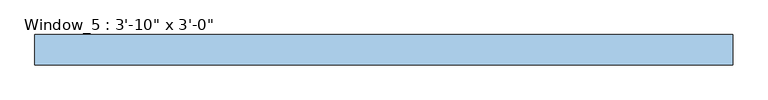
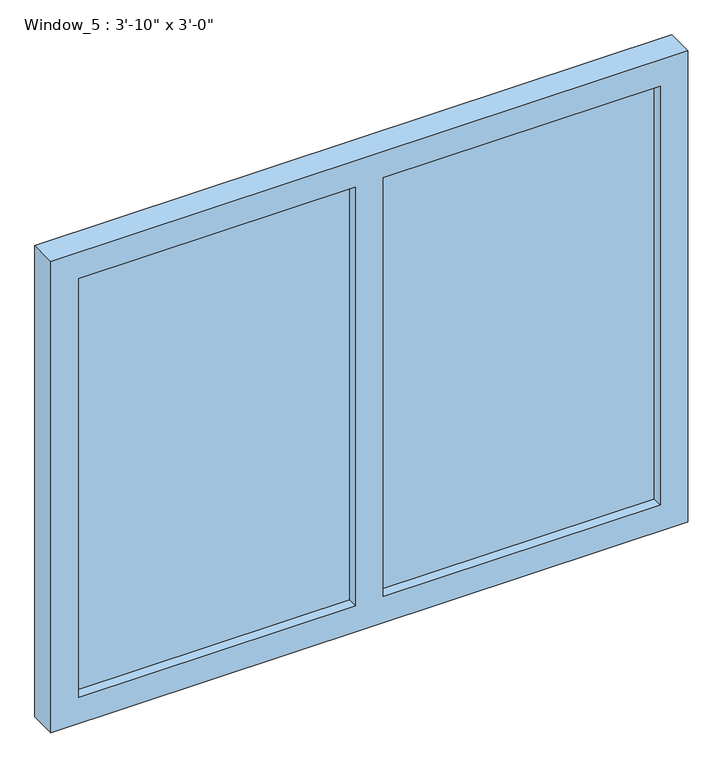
"""IFC4 building model written with IfcOpenShell, lengths in millimetres: window geometry."""

from ifc_helpers import new_model, si_unit, frame, origin, place, context, project, spatial, polyline, outline, extrude, source, transform, mapped, element, save


def window_898dd9ae(model_context):
    return source(origin(), model_context, "Body", "SweptSolid", [
        extrude(outline(polyline([(546.1, 0.0), (38.1, 0.0), (38.1, 12.7), (546.1, 12.7), (546.1, 0.0)])), frame((0.0, 0.0, 889.0), z_axis=(0.0, 0.0, 1.0), x_axis=(1.0, 0.0, 0.0)), (0.0, 0.0, 1.0), 812.8),
        extrude(outline(polyline([(-12.7, 0.0), (-520.7, 0.0), (-520.7, 12.7), (-12.7, 12.7), (-12.7, 0.0)])), frame((0.0, 0.0, 889.0), z_axis=(0.0, 0.0, 1.0), x_axis=(1.0, 0.0, 0.0)), (0.0, 0.0, 1.0), 812.8),
        extrude(outline(polyline([(1752.6, -571.5), (838.2, -571.5), (838.2, 596.9), (1752.6, 596.9), (1752.6, -571.5)]), holes=[polyline([(889.0, -520.7), (1701.8, -520.7), (1701.8, -12.7), (889.0, -12.7), (889.0, -520.7)]), polyline([(1701.8, 38.1), (1701.8, 546.1), (889.0, 546.1), (889.0, 38.1), (1701.8, 38.1)])]), frame((0.0, -19.05, 0.0), z_axis=(0.0, 1.0, 0.0), x_axis=(0.0, 0.0, 1.0)), (0.0, 0.0, 1.0), 50.8),
    ])


if __name__ == "__main__":
    model = new_model("IFC4")
    model_context = context("Model", 3, world=origin())
    ifc_project = project(units=[si_unit("LENGTHUNIT", "METRE", prefix="MILLI")], contexts=[model_context])
    site = spatial("IfcSite", under=ifc_project)
    building = spatial("IfcBuilding", under=site)
    placement = place(None, origin())
    window_shape = window_898dd9ae(model_context)
    element("IfcWindow", 1, ObjectType="Window_5 : 3'-10\" x 3'-0\"", at=placement, inside=building, context=model_context, shape_type="MappedRepresentation", body=[
        mapped(window_shape, transform((0.0, 0.0, 0.0), x_axis=(1.0, 0.0, 0.0), y_axis=(0.0, 1.0, 0.0), z_axis=(0.0, 0.0, 1.0))),
    ])
    save(model, "model.ifc")
